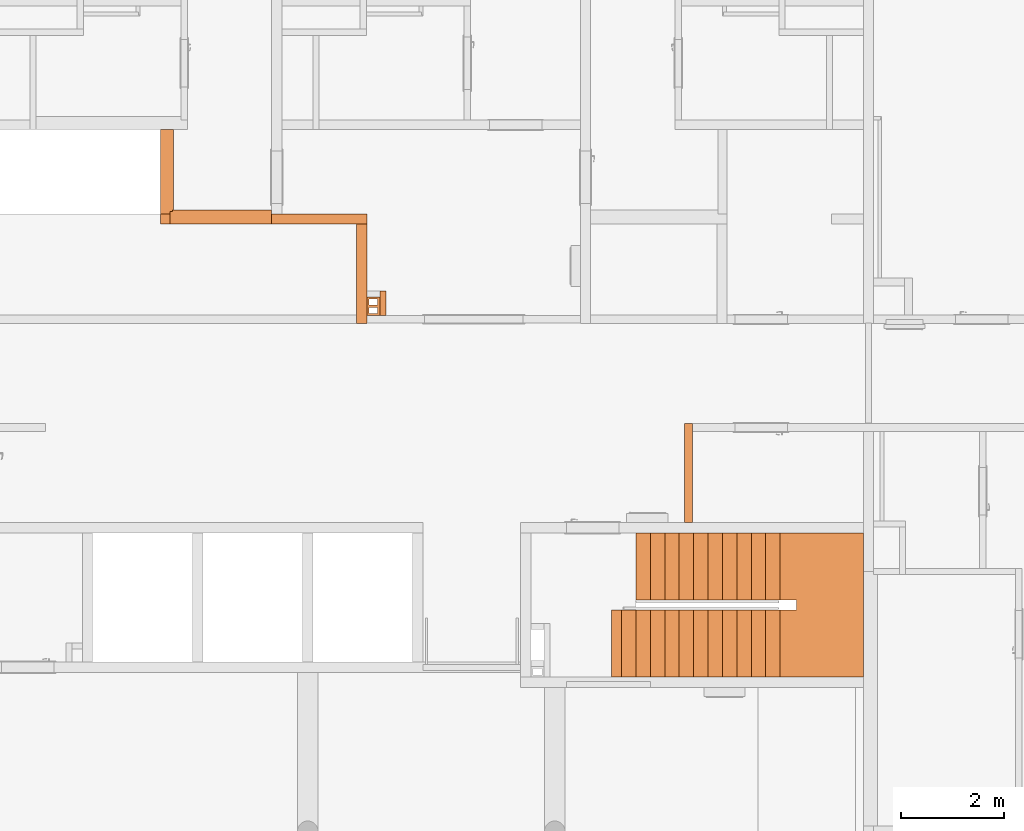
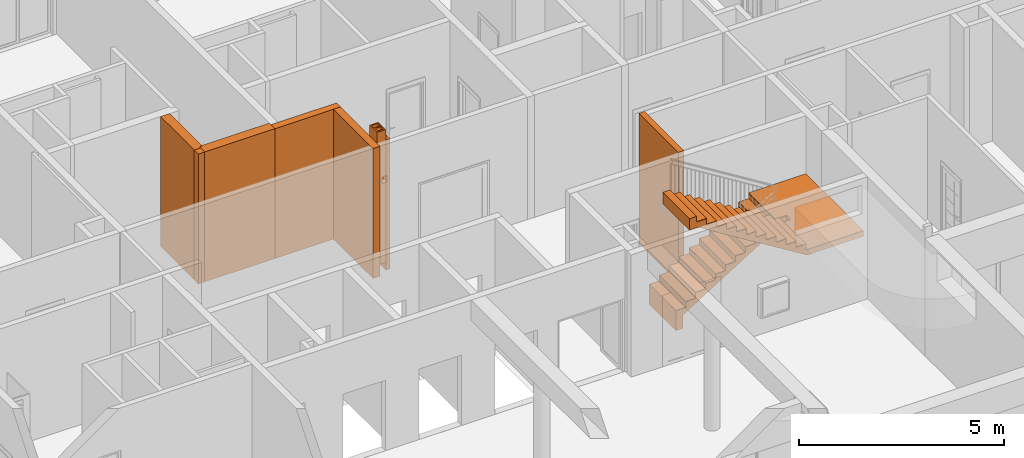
# One storey, part 38 of 46: 9 proxies.
"""IFC2X3 building model written with IfcOpenShell, lengths in millimetres."""

from ifc_helpers import new_model, entity, si_unit, converted_unit, derived_unit, money_unit, direction, frame, origin_with_axes, place, context, subcontext, project, spatial, faceted_brep, material, material_list, type_object, element, save


model = new_model("IFC2X3")

# Units and contexts
model_context = context("Model", 3, precision=0.01, world=origin_with_axes(), true_north=direction((0.34421633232, 0.938890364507)))
body_context = subcontext(model_context, "Body", "Model", "MODEL_VIEW")
ifc_project = project(units=[si_unit("LENGTHUNIT", "METRE", prefix="MILLI"), si_unit("AREAUNIT", "SQUARE_METRE"), si_unit("VOLUMEUNIT", "CUBIC_METRE"), converted_unit("PLANEANGLEUNIT", "DEGREE", entity("IfcPlaneAngleMeasure", 0.0174532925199), si_unit("PLANEANGLEUNIT", "RADIAN"), dimensions=[0, 0, 0, 0, 0, 0, 0]), si_unit("SOLIDANGLEUNIT", "STERADIAN"), money_unit("USD"), converted_unit("TIMEUNIT", "Year", entity("IfcTimeMeasure", 31556926.0), si_unit("TIMEUNIT", "SECOND"), dimensions=[0, 0, 1, 0, 0, 0, 0]), si_unit("MASSUNIT", "GRAM", prefix="KILO"), si_unit("THERMODYNAMICTEMPERATUREUNIT", "DEGREE_CELSIUS"), si_unit("LUMINOUSINTENSITYUNIT", "LUMEN"), si_unit("ENERGYUNIT", "JOULE", prefix="MEGA"), derived_unit("THERMALCONDUCTANCEUNIT", [(si_unit("POWERUNIT", "WATT"), 1), (si_unit("LENGTHUNIT", "METRE"), -1), (si_unit("THERMODYNAMICTEMPERATUREUNIT", "KELVIN"), -1)]), derived_unit("SPECIFICHEATCAPACITYUNIT", [(si_unit("ENERGYUNIT", "JOULE"), 1), (si_unit("MASSUNIT", "GRAM", prefix="KILO"), -1), (si_unit("THERMODYNAMICTEMPERATUREUNIT", "KELVIN"), -1)]), derived_unit("MASSDENSITYUNIT", [(si_unit("MASSUNIT", "GRAM", prefix="KILO"), 1), (si_unit("VOLUMEUNIT", "CUBIC_METRE"), -1)])], contexts=[model_context])

# Site, building, storey
site_placement = place(None, origin_with_axes())
site = spatial("IfcSite", under=ifc_project, at=site_placement, Name="USTRONIE MORSKIE", CompositionType="ELEMENT")
building_placement = place(site_placement, origin_with_axes())
building = spatial("IfcBuilding", under=site, at=building_placement, Name="Budynek", CompositionType="ELEMENT")
storey_placement = place(building_placement, origin_with_axes())
storey = spatial("IfcBuildingStorey", under=building, at=storey_placement, Name="PARTER", CompositionType="ELEMENT", Elevation=0.0)

# Proxies
ifc_material_1 = material(Name="Bloczki silikatowe")
building_element_proxy_type_1 = type_object("IfcBuildingElementProxyType", Name="Bloczki silikatowe 120", PredefinedType="NOTDEFINED")
proxy_1_placement = place(storey_placement, frame((386817.920919, 736851.199036, -230.0), z_axis=(0.0, 0.0, 1.0), x_axis=(0.0, 1.0, 0.0)))
element("IfcBuildingElementProxy", 1, at=proxy_1_placement, inside=storey, type_object=building_element_proxy_type_1, material=ifc_material_1, Name="SW-04", context=body_context, shape_type="Brep", body=[
    faceted_brep([(555.0, -120.0, 3870.0), (555.0, 0.0, 3870.0), (75.0, 0.0, 3870.0), (75.0, -120.0, 3870.0), (555.0, -120.0, 0.0), (555.0, 0.0, 0.0), (75.0, 0.0, 0.0), (75.0, -120.0, 0.0)], [[[0, 1, 2, 3]], [[1, 0, 4, 5]], [[1, 5, 6, 2]], [[7, 3, 2, 6]], [[4, 0, 3, 7]], [[5, 4, 7, 6]]]),
])
ifc_material_2 = material(Name="Beton konstrukcyjny B25")
ifc_material_3 = material(Name="Płytki podłogowe")
ifc_material_list_1 = material_list([ifc_material_2, ifc_material_2, ifc_material_2, ifc_material_3, ifc_material_3, ifc_material_3, ifc_material_3, ifc_material_3, ifc_material_3, ifc_material_3, ifc_material_3, ifc_material_3, ifc_material_3, ifc_material_3, ifc_material_3, ifc_material_3, ifc_material_3, ifc_material_3, ifc_material_3, ifc_material_3, ifc_material_3, ifc_material_3, ifc_material_3, ifc_material_3, ifc_material_3])
building_element_proxy_type_2 = type_object("IfcBuildingElementProxyType", Name="Typ schodów", PredefinedType="NOTDEFINED")
proxy_2_placement = place(storey_placement, frame((391797.920919, 732701.199036, 0.0), z_axis=(0.0, 0.0, 1.0), x_axis=(1.0, 0.0, 0.0)))
element("IfcBuildingElementProxy", 2, at=proxy_2_placement, inside=storey, type_object=building_element_proxy_type_2, material=ifc_material_list_1, Name="SCH2", context=body_context, shape_type="Brep", body=[
    faceted_brep([(2800.0, -1299.99999404, 1724.13043478), (2800.0, 0.0, 1724.13043478), (2520.0, 0.0, 1724.13043478), (2520.0, -1300.0, 1724.13043478), (2800.0, -1299.99999404, 1738.04347826), (2800.0, 0.0, 1738.04347826), (2800.0, 0.0, 1582.86705938), (2706.66666667, 0.0, 1524.89604489), (2613.33333333, 0.0, 1466.9250304), (2520.0, 0.0, 1408.95401591), (2426.66666667, 0.0, 1350.98300141), (2333.33333333, 0.0, 1293.01198692), (2240.0, 0.0, 1235.04097243), (2146.66666667, 0.0, 1177.06995793), (2053.33333333, 0.0, 1119.09894344), (1960.0, 0.0, 1061.12792895), (1866.66666667, 0.0, 1003.15691446), (1773.33333333, 0.0, 945.185899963), (1680.0, 0.0, 887.214885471), (1586.66666667, 0.0, 829.243870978), (1493.33333333, 0.0, 771.272856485), (1400.0, 0.0, 713.301841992), (1306.66666667, 0.0, 655.3308275), (1213.33333333, 0.0, 597.359813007), (1120.0, 0.0, 539.388798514), (1026.66666667, 0.0, 481.417784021), (933.333333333, 0.0, 423.446769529), (840.0, 0.0, 365.475755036), (746.666666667, 0.0, 307.504740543), (653.333333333, 0.0, 249.53372605), (560.0, 0.0, 191.562711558), (466.666666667, 0.0, 133.591697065), (373.333333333, 0.0, 75.620682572), (280.0, 0.0, 17.6496680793), (200.0, 0.0, -32.0397729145), (200.0, 0.0, -430.0), (0.0, 0.0, -430.0), (0.0, 0.0, -156.263375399), (0.0, 0.0, 158.913043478), (280.0, 0.0, 158.913043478), (280.0, 0.0, 332.826086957), (560.0, 0.0, 332.826086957), (560.0, 0.0, 506.739130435), (840.0, 0.0, 506.739130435), (840.0, 0.0, 680.652173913), (1120.0, 0.0, 680.652173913), (1120.0, 0.0, 854.565217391), (1400.0, 0.0, 854.565217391), (1400.0, 0.0, 1028.47826087), (1680.0, 0.0, 1028.47826087), (1680.0, 0.0, 1202.39130435), (1960.0, 0.0, 1202.39130435), (1960.0, 0.0, 1376.30434783), (2240.0, 0.0, 1376.30434783), (2240.0, 0.0, 1550.2173913), (2520.0, 0.0, 1550.2173913), (3049.83403439, 0.0, 1738.04347826), (2520.0, -1300.0, 1550.2173913), (2240.0, -1300.0, 1550.2173913), (2240.0, -1300.0, 1376.30434783), (1960.0, -1300.0, 1376.30434783), (1960.0, -1300.0, 1202.39130435), (1680.0, -1300.0, 1202.39130435), (1680.0, -1300.0, 1028.47826087), (1400.0, -1300.0, 1028.47826087), (1400.0, -1300.0, 854.565217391), (1120.0, -1300.0, 854.565217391), (1120.0, -1300.0, 680.652173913), (840.0, -1300.0, 680.652173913), (840.0, -1300.0, 506.739130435), (560.0, -1300.0, 506.739130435), (560.0, -1300.0, 332.826086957), (280.0, -1300.0, 332.826086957), (280.0, -1300.0, 158.913043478), (0.0, -1300.0, 158.913043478), (0.0, -1300.0, -156.263375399), (0.0, -1300.0, -430.0), (200.0, -1300.0, -430.0), (200.0, -1300.0, -32.0397729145), (280.0, -1300.0, 17.6496680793), (373.333333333, -1300.0, 75.620682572), (466.666666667, -1300.0, 133.591697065), (560.0, -1300.0, 191.562711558), (653.333333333, -1300.0, 249.53372605), (746.666666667, -1300.0, 307.504740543), (840.0, -1300.0, 365.475755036), (933.333333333, -1300.0, 423.446769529), (1026.66666667, -1300.0, 481.417784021), (1120.0, -1300.0, 539.388798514), (1213.33333333, -1300.0, 597.359813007), (1306.66666667, -1300.0, 655.3308275), (1400.0, -1300.0, 713.301841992), (1493.33333333, -1300.0, 771.272856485), (1586.66666667, -1300.0, 829.243870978), (1680.0, -1300.0, 887.214885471), (1773.33333333, -1300.0, 945.185899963), (1866.66666667, -1300.0, 1003.15691446), (1960.0, -1300.0, 1061.12792895), (2053.33333333, -1300.0, 1119.09894344), (2146.66666667, -1300.0, 1177.06995793), (2240.0, -1300.0, 1235.04097243), (2333.33333333, -1300.0, 1293.01198692), (2426.66666667, -1300.0, 1350.98300141), (2520.0, -1300.0, 1408.95401591), (2613.33333333, -1300.0, 1466.9250304), (2706.66666667, -1300.0, 1524.89604489), (2800.0, -1299.99999404, 1582.86705938), (3049.83403439, -1299.99999404, 1738.04347826)], [[[0, 1, 2, 3]], [[1, 0, 4, 5]], [[6, 7, 8, 9, 10, 11, 12, 13, 14, 15, 16, 17, 18, 19, 20, 21, 22, 23, 24, 25, 26, 27, 28, 29, 30, 31, 32, 33, 34, 35, 36, 37, 38, 39, 40, 41, 42, 43, 44, 45, 46, 47, 48, 49, 50, 51, 52, 53, 54, 55, 2, 1, 5, 56]], [[57, 3, 2, 55]], [[0, 3, 57, 58, 59, 60, 61, 62, 63, 64, 65, 66, 67, 68, 69, 70, 71, 72, 73, 74, 75, 76, 77, 78, 79, 80, 81, 82, 83, 84, 85, 86, 87, 88, 89, 90, 91, 92, 93, 94, 95, 96, 97, 98, 99, 100, 101, 102, 103, 104, 105, 106, 107, 4]], [[107, 56, 5, 4]], [[106, 105, 7, 6, 56, 107]], [[105, 104, 8, 7]], [[104, 103, 9, 8]], [[103, 102, 10, 9]], [[102, 101, 11, 10]], [[101, 100, 12, 11]], [[100, 99, 13, 12]], [[99, 98, 14, 13]], [[98, 97, 15, 14]], [[97, 96, 16, 15]], [[96, 95, 17, 16]], [[95, 94, 18, 17]], [[94, 93, 19, 18]], [[93, 92, 20, 19]], [[92, 91, 21, 20]], [[91, 90, 22, 21]], [[90, 89, 23, 22]], [[89, 88, 24, 23]], [[88, 87, 25, 24]], [[87, 86, 26, 25]], [[86, 85, 27, 26]], [[85, 84, 28, 27]], [[84, 83, 29, 28]], [[83, 82, 30, 29]], [[82, 81, 31, 30]], [[81, 80, 32, 31]], [[80, 79, 33, 32]], [[79, 78, 34, 33]], [[35, 34, 78, 77]], [[35, 77, 76, 36]], [[76, 75, 37, 36]], [[38, 37, 75, 74]], [[39, 38, 74, 73]], [[73, 72, 40, 39]], [[41, 40, 72, 71]], [[71, 70, 42, 41]], [[43, 42, 70, 69]], [[69, 68, 44, 43]], [[45, 44, 68, 67]], [[67, 66, 46, 45]], [[47, 46, 66, 65]], [[65, 64, 48, 47]], [[49, 48, 64, 63]], [[63, 62, 50, 49]], [[51, 50, 62, 61]], [[61, 60, 52, 51]], [[53, 52, 60, 59]], [[59, 58, 54, 53]], [[55, 54, 58, 57]]]),
    faceted_brep([(2830.16596561, -1500.00000596, 1738.04347826), (2830.16596561, -1500.00000596, 1898.04347826), (3119.99999404, -1500.00000596, 1898.04347826), (3119.99999404, -1500.00000596, 1738.04347826), (2830.16596561, -2800.0, 1898.04347826), (2830.16596561, -2800.0, 1738.04347826), (4419.99998808, -2800.0, 1898.04347826), (4419.99998808, 0.0, 1898.04347826), (2800.0, 0.0, 1898.04347826), (2800.0, -1299.99999404, 1898.04347826), (3119.99999404, -1299.99999404, 1898.04347826), (3119.99999404, -1299.99999404, 1738.04347826), (2800.0, -1299.99999404, 1738.04347826), (2800.0, 0.0, 1738.04347826), (4419.99998808, 0.0, 1738.04347826), (4419.99998808, -2800.0, 1738.04347826)], [[[0, 1, 2, 3]], [[4, 1, 0, 5]], [[1, 4, 6, 7, 8, 9, 10, 2]], [[10, 11, 3, 2]], [[5, 0, 3, 11, 12, 13, 14, 15]], [[4, 5, 15, 6]], [[6, 15, 14, 7]], [[7, 14, 13, 8]], [[8, 13, 12, 9]], [[9, 12, 11, 10]]]),
    faceted_brep([(-186.666666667, -2800.0, 3611.85256663), (-231.984034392, -2800.0, 3640.0), (-231.984034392, -1500.0, 3640.0), (-186.666666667, -1500.0, 3611.85256663), (-480.0, -2800.0, 3640.0), (-93.3333333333, -2800.0, 3553.88155214), (0.0, -2800.0, 3495.91053764), (93.3333333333, -2800.0, 3437.93952315), (186.666666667, -2800.0, 3379.96850866), (280.0, -2800.0, 3321.99749417), (373.333333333, -2800.0, 3264.02647967), (466.666666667, -2800.0, 3206.05546518), (560.0, -2800.0, 3148.08445069), (653.333333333, -2800.0, 3090.1134362), (746.666666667, -2800.0, 3032.1424217), (840.0, -2800.0, 2974.17140721), (933.333333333, -2800.0, 2916.20039272), (1026.66666667, -2800.0, 2858.22937822), (1120.0, -2800.0, 2800.25836373), (1213.33333333, -2800.0, 2742.28734924), (1306.66666667, -2800.0, 2684.31633475), (1400.0, -2800.0, 2626.34532025), (1493.33333333, -2800.0, 2568.37430576), (1586.66666667, -2800.0, 2510.40329127), (1680.0, -2800.0, 2452.43227677), (1773.33333333, -2800.0, 2394.46126228), (1866.66666667, -2800.0, 2336.49024779), (1960.0, -2800.0, 2278.5192333), (2053.33333333, -2800.0, 2220.5482188), (2146.66666667, -2800.0, 2162.5772043), (2240.0, -2800.0, 2104.6061898), (2333.33333333, -2800.0, 2046.63517526), (2426.66666667, -2800.0, 1988.66416071), (2520.0, -2800.0, 1930.69314613), (2613.33333284, -2800.0, 1872.72213173), (2706.66666567, -2800.0, 1814.7511173), (2800.0, -2800.0, 1756.78010194), (2830.16596561, -2800.0, 1738.04347826), (2830.16596561, -2800.0, 1898.04347826), (2800.0, -2800.0, 1898.04347826), (2799.99999851, -2800.0, 2071.95652174), (2520.0, -2800.0, 2071.95652174), (2520.0, -2800.0, 2245.86956522), (2240.0, -2800.0, 2245.86956522), (2240.0, -2800.0, 2419.7826087), (1960.0, -2800.0, 2419.7826087), (1960.0, -2800.0, 2593.69565217), (1680.0, -2800.0, 2593.69565217), (1680.0, -2800.0, 2767.60869565), (1400.0, -2800.0, 2767.60869565), (1400.0, -2800.0, 2941.52173913), (1120.0, -2800.0, 2941.52173913), (1120.0, -2800.0, 3115.43478261), (840.0, -2800.0, 3115.43478261), (840.0, -2800.0, 3289.34782609), (560.0, -2800.0, 3289.34782609), (560.0, -2800.0, 3463.26086957), (280.0, -2800.0, 3463.26086957), (280.0, -2800.0, 3637.17391304), (0.0, -2800.0, 3637.17391304), (0.0, -2800.0, 3811.08695652), (-280.0, -2800.0, 3811.08695652), (-280.0, -2800.0, 3985.0), (-480.0, -2800.0, 3985.0), (-480.0, -1500.0, 3640.0), (-480.0, -1500.0, 3985.0), (-280.0, -1500.0, 3985.0), (-280.0, -1500.0, 3811.08695652), (0.0, -1500.0, 3811.08695652), (0.0, -1500.0, 3637.17391304), (280.0, -1500.0, 3637.17391304), (280.0, -1500.0, 3463.26086957), (560.0, -1500.0, 3463.26086957), (560.0, -1500.0, 3289.34782609), (840.0, -1500.0, 3289.34782609), (840.0, -1500.0, 3115.43478261), (1120.0, -1500.0, 3115.43478261), (1120.0, -1500.0, 2941.52173913), (1400.0, -1500.0, 2941.52173913), (1400.0, -1500.0, 2767.60869565), (1680.0, -1500.0, 2767.60869565), (1680.0, -1500.0, 2593.69565217), (1960.0, -1500.0, 2593.69565217), (1960.0, -1500.0, 2419.7826087), (2240.0, -1500.0, 2419.7826087), (2240.0, -1500.0, 2245.86956522), (2520.0, -1500.0, 2245.86956522), (2520.0, -1500.0, 2071.95652174), (2799.99999851, -1500.0, 2071.95652174), (2800.0, -1500.00000596, 1898.04347826), (2830.16596561, -1500.00000596, 1898.04347826), (2830.16596561, -1500.00000596, 1738.04347826), (2800.0, -1500.00000596, 1756.78010194), (2706.66666567, -1500.0, 1814.7511173), (2613.33333284, -1500.0, 1872.72213173), (2520.0, -1500.0, 1930.69314613), (2426.66666667, -1500.0, 1988.66416071), (2333.33333333, -1500.0, 2046.63517526), (2240.0, -1500.0, 2104.6061898), (2146.66666667, -1500.0, 2162.5772043), (2053.33333333, -1500.0, 2220.5482188), (1960.0, -1500.0, 2278.5192333), (1866.66666667, -1500.0, 2336.49024779), (1773.33333333, -1500.0, 2394.46126228), (1680.0, -1500.0, 2452.43227677), (1586.66666667, -1500.0, 2510.40329127), (1493.33333333, -1500.0, 2568.37430576), (1400.0, -1500.0, 2626.34532025), (1306.66666667, -1500.0, 2684.31633475), (1213.33333333, -1500.0, 2742.28734924), (1120.0, -1500.0, 2800.25836373), (1026.66666667, -1500.0, 2858.22937822), (933.333333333, -1500.0, 2916.20039272), (840.0, -1500.0, 2974.17140721), (746.666666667, -1500.0, 3032.1424217), (653.333333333, -1500.0, 3090.1134362), (560.0, -1500.0, 3148.08445069), (466.666666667, -1500.0, 3206.05546518), (373.333333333, -1500.0, 3264.02647967), (280.0, -1500.0, 3321.99749417), (186.666666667, -1500.0, 3379.96850866), (93.3333333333, -1500.0, 3437.93952315), (0.0, -1500.0, 3495.91053764), (-93.3333333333, -1500.0, 3553.88155214)], [[[0, 1, 2, 3]], [[4, 1, 0, 5, 6, 7, 8, 9, 10, 11, 12, 13, 14, 15, 16, 17, 18, 19, 20, 21, 22, 23, 24, 25, 26, 27, 28, 29, 30, 31, 32, 33, 34, 35, 36, 37, 38, 39, 40, 41, 42, 43, 44, 45, 46, 47, 48, 49, 50, 51, 52, 53, 54, 55, 56, 57, 58, 59, 60, 61, 62, 63]], [[64, 2, 1, 4]], [[3, 2, 64, 65, 66, 67, 68, 69, 70, 71, 72, 73, 74, 75, 76, 77, 78, 79, 80, 81, 82, 83, 84, 85, 86, 87, 88, 89, 90, 91, 92, 93, 94, 95, 96, 97, 98, 99, 100, 101, 102, 103, 104, 105, 106, 107, 108, 109, 110, 111, 112, 113, 114, 115, 116, 117, 118, 119, 120, 121, 122, 123]], [[123, 5, 0, 3]], [[122, 6, 5, 123]], [[121, 7, 6, 122]], [[120, 8, 7, 121]], [[119, 9, 8, 120]], [[118, 10, 9, 119]], [[117, 11, 10, 118]], [[116, 12, 11, 117]], [[115, 13, 12, 116]], [[114, 14, 13, 115]], [[113, 15, 14, 114]], [[112, 16, 15, 113]], [[111, 17, 16, 112]], [[110, 18, 17, 111]], [[109, 19, 18, 110]], [[108, 20, 19, 109]], [[107, 21, 20, 108]], [[106, 22, 21, 107]], [[105, 23, 22, 106]], [[104, 24, 23, 105]], [[103, 25, 24, 104]], [[102, 26, 25, 103]], [[101, 27, 26, 102]], [[100, 28, 27, 101]], [[99, 29, 28, 100]], [[98, 30, 29, 99]], [[97, 31, 30, 98]], [[96, 32, 31, 97]], [[95, 33, 32, 96]], [[94, 34, 33, 95]], [[93, 35, 34, 94]], [[35, 93, 92, 36]], [[91, 37, 36, 92]], [[38, 37, 91, 90]], [[38, 90, 89, 39]], [[88, 40, 39, 89]], [[87, 41, 40, 88]], [[41, 87, 86, 42]], [[85, 43, 42, 86]], [[43, 85, 84, 44]], [[83, 45, 44, 84]], [[45, 83, 82, 46]], [[81, 47, 46, 82]], [[47, 81, 80, 48]], [[79, 49, 48, 80]], [[49, 79, 78, 50]], [[77, 51, 50, 78]], [[51, 77, 76, 52]], [[75, 53, 52, 76]], [[53, 75, 74, 54]], [[73, 55, 54, 74]], [[55, 73, 72, 56]], [[71, 57, 56, 72]], [[57, 71, 70, 58]], [[69, 59, 58, 70]], [[59, 69, 68, 60]], [[68, 67, 61, 60]], [[62, 61, 67, 66]], [[62, 66, 65, 63]], [[4, 63, 65, 64]]]),
    faceted_brep([(0.0, 0.0, 163.913043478), (0.0, -1300.0, 163.913043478), (0.0, -1300.0, 173.913043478), (0.0, 0.0, 173.913043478), (280.0, 0.0, 163.913043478), (280.0, -1300.0, 163.913043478), (280.0, -1300.0, 173.913043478), (280.0, 0.0, 173.913043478)], [[[0, 1, 2, 3]], [[0, 4, 5, 1]], [[1, 5, 6, 2]], [[3, 2, 6, 7]], [[4, 0, 3, 7]], [[5, 4, 7, 6]]]),
    faceted_brep([(280.0, 0.0, 337.826086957), (280.0, -1300.0, 337.826086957), (280.0, -1300.0, 347.826086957), (280.0, 0.0, 347.826086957), (560.0, 0.0, 337.826086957), (560.0, -1300.0, 337.826086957), (560.0, -1300.0, 347.826086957), (560.0, 0.0, 347.826086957)], [[[0, 1, 2, 3]], [[0, 4, 5, 1]], [[1, 5, 6, 2]], [[3, 2, 6, 7]], [[4, 0, 3, 7]], [[5, 4, 7, 6]]]),
    faceted_brep([(560.0, 0.0, 511.739130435), (560.0, -1300.0, 511.739130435), (560.0, -1300.0, 521.739130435), (560.0, 0.0, 521.739130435), (840.0, 0.0, 511.739130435), (840.0, -1300.0, 511.739130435), (840.0, -1300.0, 521.739130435), (840.0, 0.0, 521.739130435)], [[[0, 1, 2, 3]], [[0, 4, 5, 1]], [[1, 5, 6, 2]], [[3, 2, 6, 7]], [[4, 0, 3, 7]], [[5, 4, 7, 6]]]),
    faceted_brep([(840.0, 0.0, 685.652173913), (840.0, -1300.0, 685.652173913), (840.0, -1300.0, 695.652173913), (840.0, 0.0, 695.652173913), (1120.0, 0.0, 685.652173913), (1120.0, -1300.0, 685.652173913), (1120.0, -1300.0, 695.652173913), (1120.0, 0.0, 695.652173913)], [[[0, 1, 2, 3]], [[0, 4, 5, 1]], [[1, 5, 6, 2]], [[3, 2, 6, 7]], [[4, 0, 3, 7]], [[5, 4, 7, 6]]]),
    faceted_brep([(1120.0, 0.0, 859.565217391), (1120.0, -1300.0, 859.565217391), (1120.0, -1300.0, 869.565217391), (1120.0, 0.0, 869.565217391), (1400.0, 0.0, 859.565217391), (1400.0, -1300.0, 859.565217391), (1400.0, -1300.0, 869.565217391), (1400.0, 0.0, 869.565217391)], [[[0, 1, 2, 3]], [[0, 4, 5, 1]], [[1, 5, 6, 2]], [[3, 2, 6, 7]], [[4, 0, 3, 7]], [[5, 4, 7, 6]]]),
    faceted_brep([(1400.0, 0.0, 1033.47826087), (1400.0, -1300.0, 1033.47826087), (1400.0, -1300.0, 1043.47826087), (1400.0, 0.0, 1043.47826087), (1680.0, 0.0, 1033.47826087), (1680.0, -1300.0, 1033.47826087), (1680.0, -1300.0, 1043.47826087), (1680.0, 0.0, 1043.47826087)], [[[0, 1, 2, 3]], [[0, 4, 5, 1]], [[1, 5, 6, 2]], [[3, 2, 6, 7]], [[4, 0, 3, 7]], [[5, 4, 7, 6]]]),
    faceted_brep([(1680.0, 0.0, 1207.39130435), (1680.0, -1300.0, 1207.39130435), (1680.0, -1300.0, 1217.39130435), (1680.0, 0.0, 1217.39130435), (1960.0, 0.0, 1207.39130435), (1960.0, -1300.0, 1207.39130435), (1960.0, -1300.0, 1217.39130435), (1960.0, 0.0, 1217.39130435)], [[[0, 1, 2, 3]], [[0, 4, 5, 1]], [[1, 5, 6, 2]], [[3, 2, 6, 7]], [[4, 0, 3, 7]], [[5, 4, 7, 6]]]),
    faceted_brep([(1960.0, 0.0, 1381.30434783), (1960.0, -1300.0, 1381.30434783), (1960.0, -1300.0, 1391.30434783), (1960.0, 0.0, 1391.30434783), (2240.0, 0.0, 1381.30434783), (2240.0, -1300.0, 1381.30434783), (2240.0, -1300.0, 1391.30434783), (2240.0, 0.0, 1391.30434783)], [[[0, 1, 2, 3]], [[0, 4, 5, 1]], [[1, 5, 6, 2]], [[3, 2, 6, 7]], [[4, 0, 3, 7]], [[5, 4, 7, 6]]]),
    faceted_brep([(2240.0, 0.0, 1555.2173913), (2240.0, -1300.0, 1555.2173913), (2240.0, -1300.0, 1565.2173913), (2240.0, 0.0, 1565.2173913), (2520.0, 0.0, 1555.2173913), (2520.0, -1300.0, 1555.2173913), (2520.0, -1300.0, 1565.2173913), (2520.0, 0.0, 1565.2173913)], [[[0, 1, 2, 3]], [[0, 4, 5, 1]], [[1, 5, 6, 2]], [[3, 2, 6, 7]], [[4, 0, 3, 7]], [[5, 4, 7, 6]]]),
    faceted_brep([(2520.0, 0.0, 1729.13043478), (2520.0, -1300.0, 1729.13043478), (2520.0, -1300.0, 1739.13043478), (2520.0, 0.0, 1739.13043478), (2800.0, 0.0, 1729.13043478), (2800.0, -1300.0, 1729.13043478), (2800.0, -1300.0, 1739.13043478), (2800.0, 0.0, 1739.13043478)], [[[0, 1, 2, 3]], [[0, 4, 5, 1]], [[1, 5, 6, 2]], [[3, 2, 6, 7]], [[4, 0, 3, 7]], [[5, 4, 7, 6]]]),
    faceted_brep([(4419.99998808, 0.0, 1903.04347826), (2800.0, 0.0, 1903.04347826), (2800.0, 0.0, 1913.04347826), (4419.99998808, 0.0, 1913.04347826), (4419.99998808, -2800.0, 1903.04347826), (2800.0, -2800.0, 1903.04347826), (2800.0, -1500.00000596, 1903.04347826), (3119.99999404, -1500.00000596, 1903.04347826), (3119.99999404, -1299.99999404, 1903.04347826), (2800.0, -1299.99999404, 1903.04347826), (2800.0, -1299.99999404, 1913.04347826), (3119.99999404, -1299.99999404, 1913.04347826), (3119.99999404, -1500.00000596, 1913.04347826), (2800.0, -1500.00000596, 1913.04347826), (2800.0, -2800.0, 1913.04347826), (4419.99998808, -2800.0, 1913.04347826)], [[[0, 1, 2, 3]], [[0, 4, 5, 6, 7, 8, 9, 1]], [[1, 9, 10, 2]], [[3, 2, 10, 11, 12, 13, 14, 15]], [[4, 0, 3, 15]], [[5, 4, 15, 14]], [[6, 5, 14, 13]], [[7, 6, 13, 12]], [[8, 7, 12, 11]], [[9, 8, 11, 10]]]),
    faceted_brep([(2520.0, -2800.0, 2076.95652174), (2799.99999851, -2800.0, 2076.95652174), (2799.99999851, -2800.0, 2086.95652174), (2520.0, -2800.0, 2086.95652174), (2520.0, -1500.0, 2076.95652174), (2799.99999851, -1500.0, 2076.95652174), (2799.99999851, -1500.0, 2086.95652174), (2520.0, -1500.0, 2086.95652174)], [[[0, 1, 2, 3]], [[0, 4, 5, 1]], [[1, 5, 6, 2]], [[3, 2, 6, 7]], [[4, 0, 3, 7]], [[5, 4, 7, 6]]]),
    faceted_brep([(2520.0, -2800.0, 2250.86956522), (2520.0, -1500.0, 2250.86956522), (2520.0, -1500.0, 2260.86956522), (2520.0, -2800.0, 2260.86956522), (2240.0, -2800.0, 2250.86956522), (2240.0, -1500.0, 2250.86956522), (2240.0, -1500.0, 2260.86956522), (2240.0, -2800.0, 2260.86956522)], [[[0, 1, 2, 3]], [[0, 4, 5, 1]], [[1, 5, 6, 2]], [[3, 2, 6, 7]], [[4, 0, 3, 7]], [[5, 4, 7, 6]]]),
    faceted_brep([(2240.0, -2800.0, 2424.7826087), (2240.0, -1500.0, 2424.7826087), (2240.0, -1500.0, 2434.7826087), (2240.0, -2800.0, 2434.7826087), (1960.0, -2800.0, 2424.7826087), (1960.0, -1500.0, 2424.7826087), (1960.0, -1500.0, 2434.7826087), (1960.0, -2800.0, 2434.7826087)], [[[0, 1, 2, 3]], [[0, 4, 5, 1]], [[1, 5, 6, 2]], [[3, 2, 6, 7]], [[4, 0, 3, 7]], [[5, 4, 7, 6]]]),
    faceted_brep([(1960.0, -2800.0, 2598.69565217), (1960.0, -1500.0, 2598.69565217), (1960.0, -1500.0, 2608.69565217), (1960.0, -2800.0, 2608.69565217), (1680.0, -2800.0, 2598.69565217), (1680.0, -1500.0, 2598.69565217), (1680.0, -1500.0, 2608.69565217), (1680.0, -2800.0, 2608.69565217)], [[[0, 1, 2, 3]], [[0, 4, 5, 1]], [[1, 5, 6, 2]], [[3, 2, 6, 7]], [[4, 0, 3, 7]], [[5, 4, 7, 6]]]),
    faceted_brep([(1680.0, -2800.0, 2772.60869565), (1680.0, -1500.0, 2772.60869565), (1680.0, -1500.0, 2782.60869565), (1680.0, -2800.0, 2782.60869565), (1400.0, -2800.0, 2772.60869565), (1400.0, -1500.0, 2772.60869565), (1400.0, -1500.0, 2782.60869565), (1400.0, -2800.0, 2782.60869565)], [[[0, 1, 2, 3]], [[0, 4, 5, 1]], [[1, 5, 6, 2]], [[3, 2, 6, 7]], [[4, 0, 3, 7]], [[5, 4, 7, 6]]]),
    faceted_brep([(1400.0, -2800.0, 2946.52173913), (1400.0, -1500.0, 2946.52173913), (1400.0, -1500.0, 2956.52173913), (1400.0, -2800.0, 2956.52173913), (1120.0, -2800.0, 2946.52173913), (1120.0, -1500.0, 2946.52173913), (1120.0, -1500.0, 2956.52173913), (1120.0, -2800.0, 2956.52173913)], [[[0, 1, 2, 3]], [[0, 4, 5, 1]], [[1, 5, 6, 2]], [[3, 2, 6, 7]], [[4, 0, 3, 7]], [[5, 4, 7, 6]]]),
    faceted_brep([(1120.0, -2800.0, 3120.43478261), (1120.0, -1500.0, 3120.43478261), (1120.0, -1500.0, 3130.43478261), (1120.0, -2800.0, 3130.43478261), (840.0, -2800.0, 3120.43478261), (840.0, -1500.0, 3120.43478261), (840.0, -1500.0, 3130.43478261), (840.0, -2800.0, 3130.43478261)], [[[0, 1, 2, 3]], [[0, 4, 5, 1]], [[1, 5, 6, 2]], [[3, 2, 6, 7]], [[4, 0, 3, 7]], [[5, 4, 7, 6]]]),
    faceted_brep([(840.0, -2800.0, 3294.34782609), (840.0, -1500.0, 3294.34782609), (840.0, -1500.0, 3304.34782609), (840.0, -2800.0, 3304.34782609), (560.0, -2800.0, 3294.34782609), (560.0, -1500.0, 3294.34782609), (560.0, -1500.0, 3304.34782609), (560.0, -2800.0, 3304.34782609)], [[[0, 1, 2, 3]], [[0, 4, 5, 1]], [[1, 5, 6, 2]], [[3, 2, 6, 7]], [[4, 0, 3, 7]], [[5, 4, 7, 6]]]),
    faceted_brep([(560.0, -2800.0, 3468.26086957), (560.0, -1500.0, 3468.26086957), (560.0, -1500.0, 3478.26086957), (560.0, -2800.0, 3478.26086957), (280.0, -2800.0, 3468.26086957), (280.0, -1500.0, 3468.26086957), (280.0, -1500.0, 3478.26086957), (280.0, -2800.0, 3478.26086957)], [[[0, 1, 2, 3]], [[0, 4, 5, 1]], [[1, 5, 6, 2]], [[3, 2, 6, 7]], [[4, 0, 3, 7]], [[5, 4, 7, 6]]]),
    faceted_brep([(280.0, -2800.0, 3642.17391304), (280.0, -1500.0, 3642.17391304), (280.0, -1500.0, 3652.17391304), (280.0, -2800.0, 3652.17391304), (0.0, -2800.0, 3642.17391304), (0.0, -1500.0, 3642.17391304), (0.0, -1500.0, 3652.17391304), (0.0, -2800.0, 3652.17391304)], [[[0, 1, 2, 3]], [[0, 4, 5, 1]], [[1, 5, 6, 2]], [[3, 2, 6, 7]], [[4, 0, 3, 7]], [[5, 4, 7, 6]]]),
    faceted_brep([(0.0, -2800.0, 3816.08695652), (0.0, -1500.0, 3816.08695652), (0.0, -1500.0, 3826.08695652), (0.0, -2800.0, 3826.08695652), (-280.0, -2800.0, 3816.08695652), (-280.0, -1500.0, 3816.08695652), (-280.0, -1500.0, 3826.08695652), (-280.0, -2800.0, 3826.08695652)], [[[0, 1, 2, 3]], [[0, 4, 5, 1]], [[1, 5, 6, 2]], [[3, 2, 6, 7]], [[4, 0, 3, 7]], [[5, 4, 7, 6]]]),
])
building_element_proxy_type_3 = type_object("IfcBuildingElementProxyType", PredefinedType="NOTDEFINED")
proxy_3_placement = place(storey_placement, frame((386817.920919, 737286.199036, 0.0), z_axis=(0.0, 0.0, 1.0), x_axis=(0.0, 1.0, 0.0)))
element("IfcBuildingElementProxy", 3, at=proxy_3_placement, inside=storey, type_object=building_element_proxy_type_3, Name="Obiekt-007", context=body_context, shape_type="Brep", body=[
    faceted_brep([(0.0, 0.0, 0.0), (0.0, 0.0, 3960.0), (-360.0, 0.0, 3960.0), (-360.0, 0.0, 0.0), (0.0, 250.0, 0.0), (0.0, 250.0, 3960.0), (-360.0, 250.0, 3960.0), (-40.0, 210.0, 3960.0), (-40.0, 40.0, 3960.0), (-160.0, 40.0, 3960.0), (-160.0, 210.0, 3960.0), (-200.0, 210.0, 3960.0), (-200.0, 40.0, 3960.0), (-320.0, 40.0, 3960.0), (-320.0, 210.0, 3960.0), (-360.0, 250.0, 0.0), (-40.0, 210.0, 0.0), (-160.0, 210.0, 0.0), (-160.0, 40.0, 0.0), (-40.0, 40.0, 0.0), (-200.0, 210.0, 0.0), (-320.0, 210.0, 0.0), (-320.0, 40.0, 0.0), (-200.0, 40.0, 0.0)], [[[0, 1, 2, 3]], [[4, 5, 1, 0]], [[1, 5, 6, 2], [7, 8, 9, 10], [11, 12, 13, 14]], [[3, 2, 6, 15]], [[0, 3, 15, 4], [16, 17, 18, 19], [20, 21, 22, 23]], [[15, 6, 5, 4]], [[19, 8, 7, 16]], [[18, 9, 8, 19]], [[17, 10, 9, 18]], [[16, 7, 10, 17]], [[23, 12, 11, 20]], [[22, 13, 12, 23]], [[21, 14, 13, 22]], [[20, 11, 14, 21]]]),
])
building_element_proxy_type_4 = type_object("IfcBuildingElementProxyType", Name="Beton konstrukcyjny B25 200", PredefinedType="NOTDEFINED")
proxy_4_placement = place(storey_placement, frame((386467.920919, 738801.199036, -230.0), z_axis=(0.0, 0.0, 1.0), x_axis=(0.0, -1.0, 0.0)))
element("IfcBuildingElementProxy", 4, at=proxy_4_placement, inside=storey, type_object=building_element_proxy_type_4, material=ifc_material_2, Name="SW-01", context=body_context, shape_type="Brep", body=[
    faceted_brep([(100.0, -100.0, 3870.0), (2030.0, -100.0, 3870.0), (2030.0, 100.0, 3870.0), (100.0, 100.0, 3870.0), (100.0, -100.0, 0.0), (2030.0, -100.0, 0.0), (2030.0, 100.0, 0.0), (100.0, 100.0, 0.0)], [[[0, 1, 2, 3]], [[4, 5, 1, 0]], [[6, 2, 1, 5]], [[3, 2, 6, 7]], [[7, 4, 0, 3]], [[7, 6, 5, 4]]]),
])
proxy_5_placement = place(storey_placement, frame((386467.920919, 738801.199036, -230.0), z_axis=(0.0, 0.0, 1.0), x_axis=(-1.0, 0.0, 0.0)))
element("IfcBuildingElementProxy", 5, at=proxy_5_placement, inside=storey, type_object=building_element_proxy_type_4, material=ifc_material_2, Name="SW-01", context=body_context, shape_type="Brep", body=[
    faceted_brep([(-100.0, -100.0, 3870.0), (1750.0, -100.0, 3870.0), (1750.0, 100.0, 3870.0), (-100.0, 100.0, 3870.0), (-100.0, -100.0, 0.0), (1750.0, -100.0, 0.0), (1750.0, 100.0, 0.0), (-100.0, 100.0, 0.0)], [[[0, 1, 2, 3]], [[4, 5, 1, 0]], [[2, 1, 5, 6]], [[3, 2, 6, 7]], [[4, 0, 3, 7]], [[7, 6, 5, 4]]]),
])
proxy_6_placement = place(storey_placement, frame((382737.920919, 738801.199036, -230.0), z_axis=(0.0, 0.0, 1.0), x_axis=(-1.0, 0.0, 0.0)))
element("IfcBuildingElementProxy", 6, at=proxy_6_placement, inside=storey, type_object=building_element_proxy_type_4, material=ifc_material_2, Name="SW-01", context=body_context, shape_type="Brep", body=[
    faceted_brep([(180.0, 100.0, 3870.0), (0.0, 100.0, 3870.0), (0.0, -100.0, 3870.0), (180.0, -100.0, 3870.0), (180.0, 100.0, 0.0), (0.0, 100.0, 0.0), (0.0, -100.0, 0.0), (180.0, -100.0, 0.0)], [[[0, 1, 2, 3]], [[4, 5, 1, 0]], [[1, 5, 6, 2]], [[3, 2, 6, 7]], [[7, 4, 0, 3]], [[7, 6, 5, 4]]]),
])
building_element_proxy_type_5 = type_object("IfcBuildingElementProxyType", Name="Beton konstrukcyjny B25 160", PredefinedType="NOTDEFINED")
proxy_7_placement = place(storey_placement, frame((392817.920919, 732801.199036, -230.0), z_axis=(0.0, 0.0, 1.0), x_axis=(0.0, 1.0, 0.0)))
element("IfcBuildingElementProxy", 7, at=proxy_7_placement, inside=storey, type_object=building_element_proxy_type_5, material=ifc_material_2, Name="SW-01", context=body_context, shape_type="Brep", body=[
    faceted_brep([(2030.0, -80.0, 3870.0), (2030.0, 80.0, 3870.0), (100.0, 80.0, 3870.0), (100.0, -80.0, 3870.0), (2030.0, -80.0, 0.0), (2030.0, 80.0, 0.0), (100.0, 80.0, 0.0), (100.0, -80.0, 0.0)], [[[0, 1, 2, 3]], [[1, 0, 4, 5]], [[1, 5, 6, 2]], [[7, 3, 2, 6]], [[4, 0, 3, 7]], [[5, 4, 7, 6]]]),
])
ifc_material_4 = material(Name="Izolacja akustyczna")
ifc_material_5 = material(Name="Płyta GK")
ifc_material_list_2 = material_list([ifc_material_1, ifc_material_4, ifc_material_5])
building_element_proxy_type_6 = type_object("IfcBuildingElementProxyType", Name="18 SILKA +5 AKU 255", PredefinedType="NOTDEFINED")
proxy_8_placement = place(storey_placement, frame((382737.920919, 738801.199036, -230.0), z_axis=(0.0, 0.0, 1.0), x_axis=(0.0, 1.0, 0.0)))
element("IfcBuildingElementProxy", 8, at=proxy_8_placement, inside=storey, type_object=building_element_proxy_type_6, material=ifc_material_list_2, Name="SW-02", context=body_context, shape_type="Brep", body=[
    faceted_brep([(100.0, 180.0, 3870.0), (100.0, 0.0, 3870.0), (1740.0, 0.0, 3870.0), (1740.0, 180.0, 3870.0), (100.0, 180.0, 0.0), (100.0, 0.0, 0.0), (1740.0, 0.0, 0.0), (1740.0, 180.0, 0.0)], [[[0, 1, 2, 3]], [[1, 0, 4, 5]], [[1, 5, 6, 2]], [[3, 2, 6, 7]], [[4, 0, 3, 7]], [[5, 4, 7, 6]]]),
    faceted_brep([(150.0, -50.0, 215.0), (1740.0, -50.0, 215.0), (1740.0, -50.0, 3870.0), (150.0, -50.0, 3870.0), (1740.0, 0.0, 215.0), (150.0, 0.0, 215.0), (1740.0, 0.0, 3870.0), (150.0, 0.0, 3870.0)], [[[0, 1, 2, 3]], [[4, 1, 0, 5]], [[1, 4, 6, 2]], [[6, 7, 3, 2]], [[5, 0, 3, 7]], [[4, 5, 7, 6]]]),
    faceted_brep([(175.0, -75.0, 215.0), (1740.0, -75.0, 215.0), (1740.0, -75.0, 3870.0), (175.0, -75.0, 3870.0), (1740.0, -50.0, 215.0), (175.0, -50.0, 215.0), (1740.0, -50.0, 3870.0), (175.0, -50.0, 3870.0)], [[[0, 1, 2, 3]], [[4, 1, 0, 5]], [[1, 4, 6, 2]], [[6, 7, 3, 2]], [[5, 0, 3, 7]], [[4, 5, 7, 6]]]),
])
ifc_material_list_3 = material_list([ifc_material_2, ifc_material_4, ifc_material_5])
building_element_proxy_type_7 = type_object("IfcBuildingElementProxyType", Name="20+5 AKU 275", PredefinedType="NOTDEFINED")
proxy_9_placement = place(storey_placement, frame((384717.920919, 738801.199036, -230.0), z_axis=(0.0, 0.0, 1.0), x_axis=(-1.0, 0.0, 0.0)))
element("IfcBuildingElementProxy", 9, at=proxy_9_placement, inside=storey, type_object=building_element_proxy_type_7, material=ifc_material_list_3, Name="SW-01", context=body_context, shape_type="Brep", body=[
    faceted_brep([(0.0, -100.0, 0.0), (0.0, 100.0, 0.0), (1980.0, 100.0, 0.0), (1980.0, -100.0, 0.0), (0.0, -100.0, 3870.0), (0.0, 100.0, 3870.0), (1980.0, 100.0, 3870.0), (1980.0, -100.0, 3870.0)], [[[0, 1, 2, 3]], [[4, 5, 1, 0]], [[1, 5, 6, 2]], [[7, 3, 2, 6]], [[4, 0, 3, 7]], [[5, 4, 7, 6]]]),
    faceted_brep([(0.0, -100.0, 215.0), (0.0, -150.0, 215.0), (0.0, -150.0, 3870.0), (0.0, -100.0, 3870.0), (1980.0, -150.0, 215.0), (1980.0, -100.0, 215.0), (1980.0, -150.0, 3870.0), (1980.0, -100.0, 3870.0)], [[[0, 1, 2, 3]], [[4, 1, 0, 5]], [[1, 4, 6, 2]], [[7, 3, 2, 6]], [[5, 0, 3, 7]], [[4, 5, 7, 6]]]),
    faceted_brep([(0.0, -150.0, 215.0), (0.0, -175.0, 215.0), (0.0, -175.0, 3870.0), (0.0, -150.0, 3870.0), (1930.0, -175.0, 215.0), (1930.0, -150.0, 215.0), (1930.0, -175.0, 3870.0), (1930.0, -150.0, 3870.0)], [[[0, 1, 2, 3]], [[4, 1, 0, 5]], [[1, 4, 6, 2]], [[2, 6, 7, 3]], [[5, 0, 3, 7]], [[4, 5, 7, 6]]]),
])

save(model, "model.ifc")
